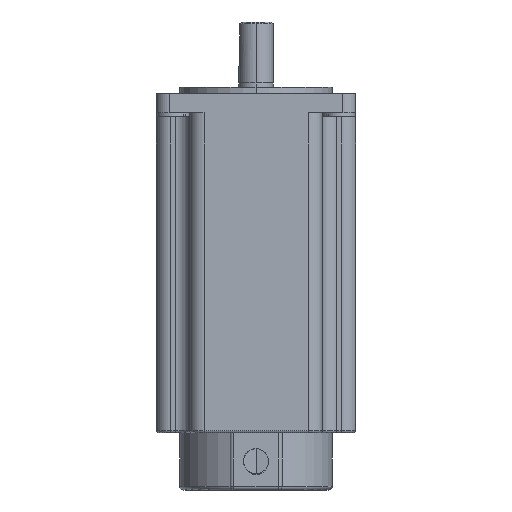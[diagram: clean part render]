
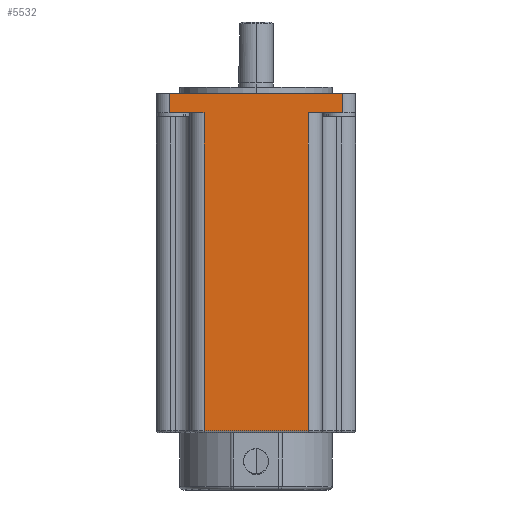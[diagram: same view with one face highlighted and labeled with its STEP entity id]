
A CAD part, left-side view. The second image highlights one B-rep face of the part: STEP entity #5532.
In plain terms, the highlighted planar face has unit normal (-1, 0, 0).
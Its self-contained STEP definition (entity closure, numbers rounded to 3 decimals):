
#291=DIRECTION('',(0.,0.,-1.));
#292=VECTOR('',#291,177.3);
#293=CARTESIAN_POINT('',(-157.914,14.418,-10.7));
#294=LINE('',#293,#292);
#299=DIRECTION('',(0.,1.,0.));
#300=VECTOR('',#299,97.);
#301=CARTESIAN_POINT('',(-157.914,-5.082,0.));
#302=LINE('',#301,#300);
#307=DIRECTION('',(0.,0.,1.));
#308=VECTOR('',#307,177.3);
#309=CARTESIAN_POINT('',(-157.914,72.418,-188.));
#310=LINE('',#309,#308);
#696=DIRECTION('',(0.,1.,0.));
#697=VECTOR('',#696,58.);
#698=CARTESIAN_POINT('',(-157.914,14.418,-188.));
#699=LINE('',#698,#697);
#1853=DIRECTION('',(0.,1.,0.));
#1854=VECTOR('',#1853,19.5);
#1855=CARTESIAN_POINT('',(-157.914,-5.082,-10.7));
#1856=LINE('',#1855,#1854);
#1866=DIRECTION('',(0.,0.,-1.));
#1867=VECTOR('',#1866,10.7);
#1868=CARTESIAN_POINT('',(-157.914,-5.082,0.));
#1869=LINE('',#1868,#1867);
#2268=DIRECTION('',(0.,0.,1.));
#2269=VECTOR('',#2268,10.7);
#2270=CARTESIAN_POINT('',(-157.914,91.918,-10.7));
#2271=LINE('',#2270,#2269);
#2276=DIRECTION('',(0.,1.,0.));
#2277=VECTOR('',#2276,19.5);
#2278=CARTESIAN_POINT('',(-157.914,72.418,-10.7));
#2279=LINE('',#2278,#2277);
#4216=CARTESIAN_POINT('',(-157.914,91.918,0.));
#4217=VERTEX_POINT('',#4216);
#4218=CARTESIAN_POINT('',(-157.914,-5.082,0.));
#4219=VERTEX_POINT('',#4218);
#4314=CARTESIAN_POINT('',(-157.914,72.418,-10.7));
#4315=CARTESIAN_POINT('',(-157.914,91.918,-10.7));
#4316=VERTEX_POINT('',#4314);
#4317=VERTEX_POINT('',#4315);
#4370=CARTESIAN_POINT('',(-157.914,-5.082,-10.7));
#4371=VERTEX_POINT('',#4370);
#4372=CARTESIAN_POINT('',(-157.914,14.418,-10.7));
#4373=VERTEX_POINT('',#4372);
#4404=CARTESIAN_POINT('',(-157.914,72.418,-188.));
#4405=VERTEX_POINT('',#4404);
#4406=CARTESIAN_POINT('',(-157.914,14.418,-188.));
#4407=VERTEX_POINT('',#4406);
#5511=CARTESIAN_POINT('',(-157.914,98.918,0.));
#5512=DIRECTION('',(1.,0.,0.));
#5513=DIRECTION('',(0.,0.,-1.));
#5514=AXIS2_PLACEMENT_3D('',#5511,#5512,#5513);
#5515=PLANE('',#5514);
#5517=ORIENTED_EDGE('',*,*,#5516,.T.);
#5519=ORIENTED_EDGE('',*,*,#5518,.T.);
#5521=ORIENTED_EDGE('',*,*,#5520,.T.);
#5522=ORIENTED_EDGE('',*,*,#5250,.F.);
#5524=ORIENTED_EDGE('',*,*,#5523,.T.);
#5526=ORIENTED_EDGE('',*,*,#5525,.T.);
#5527=ORIENTED_EDGE('',*,*,#5501,.T.);
#5529=ORIENTED_EDGE('',*,*,#5528,.T.);
#5530=EDGE_LOOP('',(#5517,#5519,#5521,#5522,#5524,#5526,#5527,#5529));
#5531=FACE_OUTER_BOUND('',#5530,.F.);
#5532=ADVANCED_FACE('',(#5531),#5515,.F.);
#5250=EDGE_CURVE('',#4219,#4217,#302,.T.);
#5501=EDGE_CURVE('',#4373,#4407,#294,.T.);
#5516=EDGE_CURVE('',#4405,#4316,#310,.T.);
#5518=EDGE_CURVE('',#4316,#4317,#2279,.T.);
#5520=EDGE_CURVE('',#4317,#4217,#2271,.T.);
#5523=EDGE_CURVE('',#4219,#4371,#1869,.T.);
#5525=EDGE_CURVE('',#4371,#4373,#1856,.T.);
#5528=EDGE_CURVE('',#4407,#4405,#699,.T.);
